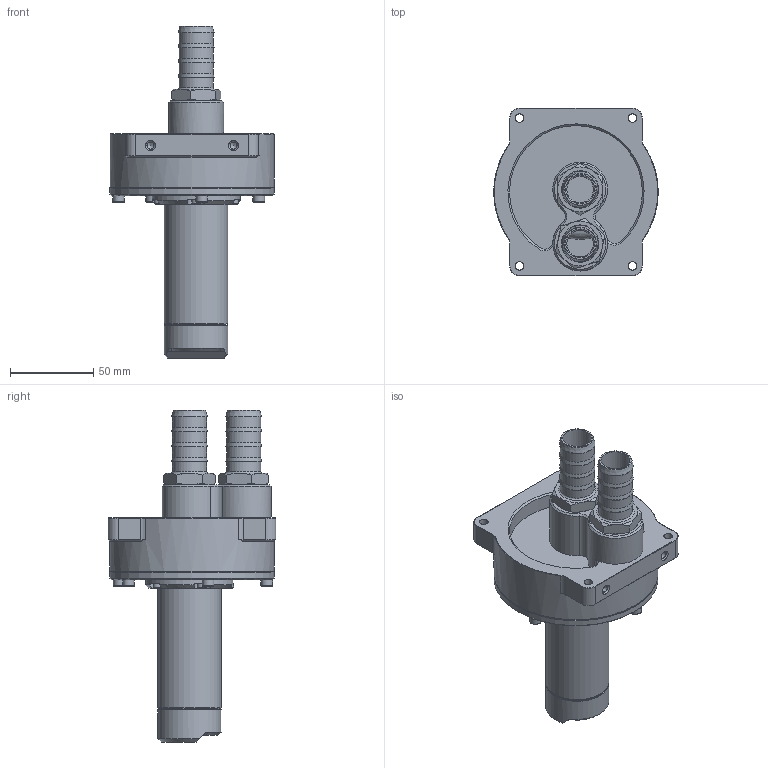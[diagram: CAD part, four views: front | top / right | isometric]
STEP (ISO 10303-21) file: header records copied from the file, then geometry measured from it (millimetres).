
FILE_DESCRIPTION (( 'STEP AP214' ), '1' );
FILE_NAME ('M3000S.STEP', '2019-09-02T15:44:48', ( '' ), ( '' ), 'SwSTEP 2.0', 'SolidWorks 2016', '' );
FILE_SCHEMA (( 'AUTOMOTIVE_DESIGN' ));
Length unit declared in the file: millimetre
Products named in the file (13): P-0260_GB_FASTENER_SCREWS_HSHCS M3X16-C; P-1155; E36DS_CONNECTOR; M3000M_CONNECTOR; P-0119_M3x12 Socket Head Screw; P-0836_M4x35 Socket Head Screw; P-1060; E36DS-01; P-1144; P-1142; M3000S; P-1154; P-1070_One Hole
Assembly tree (23 placements, depth 5):
  M3000S
    M3000M_CONNECTOR
      P-1060
      P-0836_M4x35 Socket Head Screw  x6
      E36DS_CONNECTOR
        P-0119_M3x12 Socket Head Screw  x5
        P-1070_One Hole
        E36DS-01
          P-1144
        P-1142
        P-0260_GB_FASTENER_SCREWS_HSHCS M3X16-C  x2
    P-1155  x2
    P-1154
Bounding box: 99 x 101 x 199.85 mm (x, y, z)
Volume: 262605.2 mm3; surface area: 117018.2 mm2
Topology: 20 solids, 20 shells, 666 faces, 1502 edges, 926 vertices
Faces by surface type: plane 357, cone 145, cylinder 136, torus 19, bspline 7, sphere 2
Full cylindrical faces by diameter (mm): 2.5 x7, 3 x7, 3.2 x5, 3.3 x6, 3.4 x2, 4 x6, 4.2 x4, 4.4 x6, 5.2 x4, 5.5 x7, 6.5 x2, 7 x6, 16 x2, 17.5 x3, 19.9 x1, 20.5 x8, 24.5 x2, 24.58 x2, 33 x1, 34 x1, 35.65 x1, 35.85 x1, 36 x1, 38.2 x1, 38.25 x1, 42 x1, 44 x1, 53 x1, 53.5 x1, 60 x1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
Entity records: 16019 total; most frequent: CARTESIAN_POINT 5483, DIRECTION 1975, ORIENTED_EDGE 1634, EDGE_CURVE 817, AXIS2_PLACEMENT_3D 794, EDGE_LOOP 641, VERTEX_POINT 578, FACE_OUTER_BOUND 501
